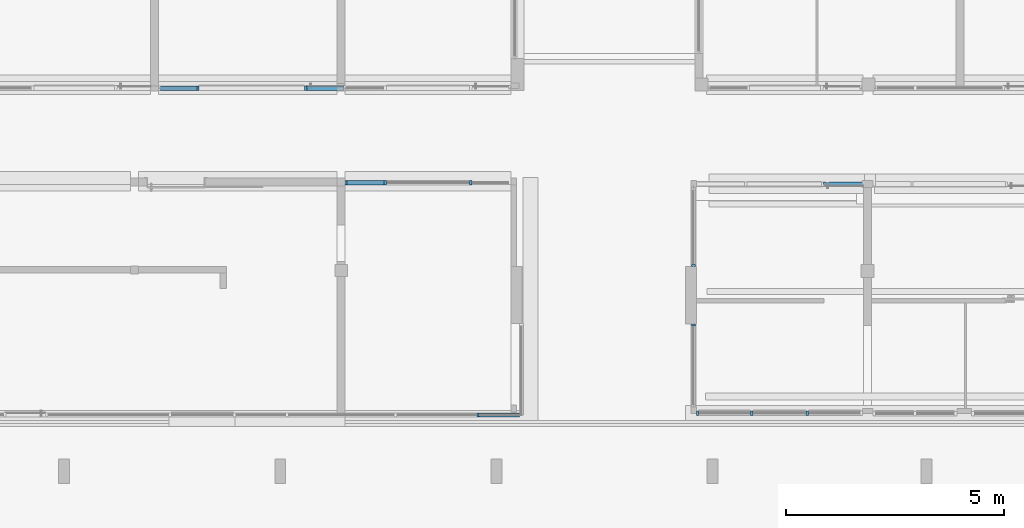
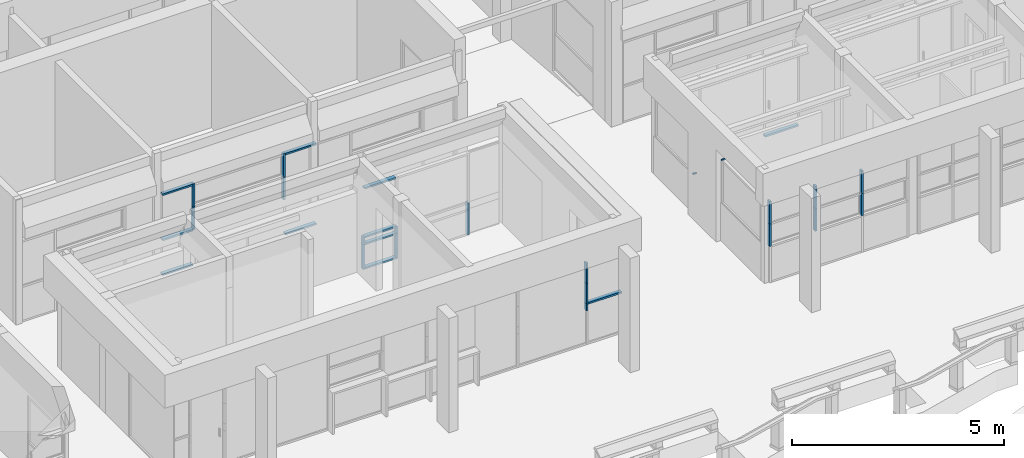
# One storey, part 20 of 117: 32 members, 7 elements without a shape of their own.
"""IFC4 building model written with IfcOpenShell, lengths in metres."""

from ifc_helpers import new_model, entity, si_unit, converted_unit, derived_unit, direction, frame, origin, place, context, subcontext, project, spatial, indexed_curve, outline, extrude, source, transform, mapped, material, type_object, type_shapes, element, aggregate, save


model = new_model("IFC4")

# Units and contexts
model_context = context("Model", 3, precision=1e-05, world=origin(), true_north=direction((6.123031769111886e-17, 1.0)))
body_context = subcontext(model_context, "Body", "Model", "MODEL_VIEW")
ifc_project = project(units=[si_unit("LENGTHUNIT", "METRE"), si_unit("AREAUNIT", "SQUARE_METRE"), si_unit("VOLUMEUNIT", "CUBIC_METRE"), converted_unit("PLANEANGLEUNIT", "DEGREE", entity("IfcRatioMeasure", 0.017453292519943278), si_unit("PLANEANGLEUNIT", "RADIAN"), dimensions=[0, 0, 0, 0, 0, 0, 0]), si_unit("MASSUNIT", "GRAM", prefix="KILO"), derived_unit("MASSDENSITYUNIT", [(si_unit("MASSUNIT", "GRAM", prefix="KILO"), 1), (si_unit("LENGTHUNIT", "METRE"), -3)]), derived_unit("MOMENTOFINERTIAUNIT", [(si_unit("LENGTHUNIT", "METRE"), 4)]), si_unit("TIMEUNIT", "SECOND"), si_unit("FREQUENCYUNIT", "HERTZ"), si_unit("THERMODYNAMICTEMPERATUREUNIT", "DEGREE_CELSIUS"), derived_unit("THERMALTRANSMITTANCEUNIT", [(si_unit("MASSUNIT", "GRAM", prefix="KILO"), 1), (si_unit("THERMODYNAMICTEMPERATUREUNIT", "KELVIN"), -1), (si_unit("TIMEUNIT", "SECOND"), -3)]), derived_unit("VOLUMETRICFLOWRATEUNIT", [(si_unit("LENGTHUNIT", "METRE"), 3), (si_unit("TIMEUNIT", "SECOND"), -1)]), derived_unit("MASSFLOWRATEUNIT", [(si_unit("MASSUNIT", "GRAM", prefix="KILO"), 1), (si_unit("TIMEUNIT", "SECOND"), -1)]), derived_unit("ROTATIONALFREQUENCYUNIT", [(si_unit("TIMEUNIT", "SECOND"), -1)]), si_unit("ELECTRICCURRENTUNIT", "AMPERE"), si_unit("ELECTRICVOLTAGEUNIT", "VOLT"), si_unit("POWERUNIT", "WATT"), si_unit("FORCEUNIT", "NEWTON", prefix="KILO"), si_unit("ILLUMINANCEUNIT", "LUX"), si_unit("LUMINOUSFLUXUNIT", "LUMEN"), si_unit("LUMINOUSINTENSITYUNIT", "CANDELA"), derived_unit("USERDEFINED", [(si_unit("MASSUNIT", "GRAM", prefix="KILO"), -1), (si_unit("LENGTHUNIT", "METRE"), -2), (si_unit("TIMEUNIT", "SECOND"), 3), (si_unit("LUMINOUSFLUXUNIT", "LUMEN"), 1)]), derived_unit("SOUNDPOWERUNIT", [(si_unit("MASSUNIT", "GRAM", prefix="KILO"), 1), (si_unit("LENGTHUNIT", "METRE"), 2), (si_unit("TIMEUNIT", "SECOND"), -3)]), derived_unit("SOUNDPRESSUREUNIT", [(si_unit("MASSUNIT", "GRAM", prefix="KILO"), 1), (si_unit("LENGTHUNIT", "METRE"), -1), (si_unit("TIMEUNIT", "SECOND"), -2)]), derived_unit("LINEARVELOCITYUNIT", [(si_unit("LENGTHUNIT", "METRE"), 1), (si_unit("TIMEUNIT", "SECOND"), -1)]), si_unit("PRESSUREUNIT", "PASCAL"), derived_unit("USERDEFINED", [(si_unit("LENGTHUNIT", "METRE"), -2), (si_unit("MASSUNIT", "GRAM", prefix="KILO"), 1), (si_unit("TIMEUNIT", "SECOND"), -2)]), derived_unit("LINEARFORCEUNIT", [(si_unit("MASSUNIT", "GRAM", prefix="KILO"), 1), (si_unit("LENGTHUNIT", "METRE"), 1), (si_unit("TIMEUNIT", "SECOND"), -2), (si_unit("LENGTHUNIT", "METRE"), -1)]), derived_unit("PLANARFORCEUNIT", [(si_unit("MASSUNIT", "GRAM", prefix="KILO"), 1), (si_unit("LENGTHUNIT", "METRE"), 1), (si_unit("TIMEUNIT", "SECOND"), -2), (si_unit("LENGTHUNIT", "METRE"), -2)])], contexts=[model_context])

# Site, building, storey
site_placement = place(None, origin())
site = spatial("IfcSite", under=ifc_project, at=site_placement, Name="Superficie", CompositionType="ELEMENT")
building_placement = place(site_placement, origin())
building = spatial("IfcBuilding", under=site, at=building_placement, CompositionType="ELEMENT")
storey_placement = place(building_placement, origin())
storey = spatial("IfcBuildingStorey", under=building, at=storey_placement, Name="Nivel 0", CompositionType="ELEMENT", Elevation=0.0)

# Curtain wall, member
curtain_wall_type = type_object("IfcCurtainWallType", Name="Muro cortina:Muro cortina - simple", PredefinedType="NOTDEFINED")
curtain_wall_1_placement = place(storey_placement, origin())
curtain_wall_1 = element("IfcCurtainWall", 1, at=curtain_wall_1_placement, inside=storey, type_object=curtain_wall_type, Name="Muro cortina:Muro cortina - simple", ObjectType="Muro cortina:Muro cortina - simple", PredefinedType="NOTDEFINED")
ifc_material = material(Name="<Unnamed>")
member_type_1 = type_object("IfcMemberType", Name="Montante rectangular:Montante rectangular - 5 x 10 cm", PredefinedType="MULLION", material=ifc_material)
shared_shape_1 = source(origin(), body_context, "Body", "SweptSolid", [
    extrude(outline(indexed_curve([(-0.05, -0.025), (0.05, -0.025), (0.05, 0.025), (-0.05, 0.025), (-0.05, -0.025)], self_intersect=False)), frame((0.0, 0.0, -0.025), z_axis=(0.0, 0.0, 1.0), x_axis=(0.0, -1.0, 0.0)), (0.0, 0.0, 1.0), 0.025),
])
type_shapes(member_type_1, [shared_shape_1])
member_1_placement = place(curtain_wall_1_placement, frame((0.7267990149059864, 0.29436135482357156, 2.3249999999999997), z_axis=(0.0, 0.0, -1.0), x_axis=(0.0, -1.0, 0.0)))
member_1 = element("IfcMember", 2, at=member_1_placement, type_object=member_type_1, material=ifc_material, Name="Montante rectangular:Montante rectangular - 5 x 10 cm", ObjectType="Montante rectangular:Montante rectangular - 5 x 10 cm", PredefinedType="MULLION", context=body_context, shape_type="MappedRepresentation", body=[
    mapped(shared_shape_1, transform((0.0, 0.0, 0.0), scale=1.0)),
])
aggregate(curtain_wall_1, [member_1])

curtain_wall_2_placement = place(storey_placement, origin())
curtain_wall_2 = element("IfcCurtainWall", 3, at=curtain_wall_2_placement, inside=storey, type_object=curtain_wall_type, Name="Muro cortina:Muro cortina - simple", ObjectType="Muro cortina:Muro cortina - simple", PredefinedType="NOTDEFINED")
member_type_2 = type_object("IfcMemberType", Name="Montante rectangular:Montante rectangular - 5 x 10 cm", PredefinedType="MULLION", material=ifc_material)
shared_shape_2 = source(origin(), body_context, "Body", "SweptSolid", [
    extrude(outline(indexed_curve([(-0.05, -0.025), (0.05, -0.025), (0.05, 0.025), (-0.05, 0.025), (-0.05, -0.025)], self_intersect=False)), frame((0.0, 0.0, -0.019999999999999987), z_axis=(0.0, 0.0, 1.0), x_axis=(0.0, -1.0, 0.0)), (0.0, 0.0, 1.0), 0.019999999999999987),
])
type_shapes(member_type_2, [shared_shape_2])
member_2_placement = place(curtain_wall_2_placement, frame((0.7267990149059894, 1.659361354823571, 1.1), z_axis=(0.0, 0.0, -1.0), x_axis=(0.0, -1.0, 0.0)))
member_2 = element("IfcMember", 4, at=member_2_placement, type_object=member_type_2, material=ifc_material, Name="Montante rectangular:Montante rectangular - 5 x 10 cm", ObjectType="Montante rectangular:Montante rectangular - 5 x 10 cm", PredefinedType="MULLION", context=body_context, shape_type="MappedRepresentation", body=[
    mapped(shared_shape_2, transform((0.0, 0.0, 0.0), scale=1.0)),
])
aggregate(curtain_wall_2, [member_2])

curtain_wall_3_placement = place(storey_placement, origin())
curtain_wall_3 = element("IfcCurtainWall", 5, at=curtain_wall_3_placement, inside=storey, type_object=curtain_wall_type, Name="Muro cortina:Muro cortina - simple", ObjectType="Muro cortina:Muro cortina - simple", PredefinedType="NOTDEFINED")
member_type_3 = type_object("IfcMemberType", Name="Montante rectangular:Montante rectangular - 5 x 10 cm", PredefinedType="MULLION", material=ifc_material)
shared_shape_3 = source(origin(), body_context, "Body", "SweptSolid", [
    extrude(outline(indexed_curve([(-0.05, -0.025), (0.05, -0.025), (0.05, 0.025), (-0.05, 0.025), (-0.05, -0.025)], self_intersect=False)), frame((-0.025, 0.0, -0.9100000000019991), z_axis=(0.0, 0.0, 1.0), x_axis=(0.0, -1.0, 0.0)), (0.0, 0.0, 1.0), 0.9100000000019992),
])
type_shapes(member_type_3, [shared_shape_3])
member_3_placement = place(curtain_wall_3_placement, frame((4.616799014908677, 3.525713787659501, 0.0), z_axis=(1.0, 0.0, 0.0), x_axis=(0.0, 0.0, -1.0)))
member_3 = element("IfcMember", 6, at=member_3_placement, type_object=member_type_3, material=ifc_material, Name="Montante rectangular:Montante rectangular - 5 x 10 cm", ObjectType="Montante rectangular:Montante rectangular - 5 x 10 cm", PredefinedType="MULLION", context=body_context, shape_type="MappedRepresentation", body=[
    mapped(shared_shape_3, transform((0.0, 0.0, 0.0), scale=1.0)),
])
aggregate(curtain_wall_3, [member_3])

# Curtain wall, members
curtain_wall_4_placement = place(storey_placement, origin())
curtain_wall_4 = element("IfcCurtainWall", 7, at=curtain_wall_4_placement, inside=storey, type_object=curtain_wall_type, Name="Muro cortina:Muro cortina - simple", ObjectType="Muro cortina:Muro cortina - simple", PredefinedType="NOTDEFINED")
member_type_4 = type_object("IfcMemberType", Name="Montante rectangular:Montante rectangular - 5 x 10 cm", PredefinedType="MULLION", material=ifc_material)
shared_shape_4 = source(origin(), body_context, "Body", "SweptSolid", [
    extrude(outline(indexed_curve([(-0.05, -0.025), (0.05, -0.025), (0.05, 0.025), (-0.05, 0.025), (-0.05, -0.025)], self_intersect=False)), frame((0.0, 0.0, -0.6649999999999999), z_axis=(0.0, 0.0, 1.0), x_axis=(0.0, -1.0, 0.0)), (0.0, 0.0, 1.0), 0.6649999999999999),
])
type_shapes(member_type_4, [shared_shape_4])
member_4_placement = place(curtain_wall_4_placement, frame((-8.1536665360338, 5.715829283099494, 1.0199999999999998), z_axis=(0.0, 0.0, -1.0), x_axis=(1.0, 0.0, 0.0)))
member_4 = element("IfcMember", 8, at=member_4_placement, type_object=member_type_4, material=ifc_material, Name="Montante rectangular:Montante rectangular - 5 x 10 cm", ObjectType="Montante rectangular:Montante rectangular - 5 x 10 cm", PredefinedType="MULLION", context=body_context, shape_type="MappedRepresentation", body=[
    mapped(shared_shape_4, transform((0.0, 0.0, 0.0), scale=1.0)),
])
member_5_placement = place(curtain_wall_4_placement, frame((-10.623200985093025, 5.715829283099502, 1.0200000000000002), z_axis=(0.0, 0.0, -1.0), x_axis=(1.0, 0.0, 0.0)))
member_5 = element("IfcMember", 9, at=member_5_placement, type_object=member_type_4, material=ifc_material, Name="Montante rectangular:Montante rectangular - 5 x 10 cm", ObjectType="Montante rectangular:Montante rectangular - 5 x 10 cm", PredefinedType="MULLION", context=body_context, shape_type="MappedRepresentation", body=[
    mapped(shared_shape_4, transform((0.0, 0.0, 0.0), scale=1.0)),
])
member_type_5 = type_object("IfcMemberType", Name="Montante rectangular:Montante rectangular - 5 x 10 cm", PredefinedType="MULLION", material=ifc_material)
shared_shape_5 = source(origin(), body_context, "Body", "SweptSolid", [
    extrude(outline(indexed_curve([(-0.05, -0.025), (0.05, -0.025), (0.05, 0.025), (-0.05, 0.025), (-0.05, -0.025)], self_intersect=False)), frame((0.0, 0.0, -0.6649999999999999), z_axis=(0.0, 0.0, 1.0), x_axis=(0.0, -1.0, 0.0)), (0.0, 0.0, 1.0), 0.6649999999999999),
])
type_shapes(member_type_5, [shared_shape_5])
member_6_placement = place(curtain_wall_4_placement, frame((-8.1536665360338, 5.715829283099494, 1.685), z_axis=(0.0, 0.0, -1.0), x_axis=(1.0, 0.0, 0.0)))
member_6 = element("IfcMember", 10, at=member_6_placement, type_object=member_type_5, material=ifc_material, Name="Montante rectangular:Montante rectangular - 5 x 10 cm", ObjectType="Montante rectangular:Montante rectangular - 5 x 10 cm", PredefinedType="MULLION", context=body_context, shape_type="MappedRepresentation", body=[
    mapped(shared_shape_5, transform((0.0, 0.0, 0.0), scale=1.0)),
])
member_7_placement = place(curtain_wall_4_placement, frame((-10.623200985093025, 5.715829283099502, 1.685), z_axis=(0.0, 0.0, -1.0), x_axis=(1.0, 0.0, 0.0)))
member_7 = element("IfcMember", 11, at=member_7_placement, type_object=member_type_5, material=ifc_material, Name="Montante rectangular:Montante rectangular - 5 x 10 cm", ObjectType="Montante rectangular:Montante rectangular - 5 x 10 cm", PredefinedType="MULLION", context=body_context, shape_type="MappedRepresentation", body=[
    mapped(shared_shape_5, transform((0.0, 0.0, 0.0), scale=1.0)),
])
member_type_6 = type_object("IfcMemberType", Name="Montante rectangular:Montante rectangular - 5 x 10 cm", PredefinedType="MULLION", material=ifc_material)
shared_shape_6 = source(origin(), body_context, "Body", "SweptSolid", [
    extrude(outline(indexed_curve([(-0.05, -0.025), (0.05, -0.025), (0.05, 0.025), (-0.05, 0.025), (-0.05, -0.025)], self_intersect=False)), frame((-0.025, 0.0, -0.8500000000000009), z_axis=(0.0, 0.0, 1.0), x_axis=(0.0, -1.0, 0.0)), (0.0, 0.0, 1.0), 0.849999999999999),
])
type_shapes(member_type_6, [shared_shape_6])
member_8_placement = place(curtain_wall_4_placement, frame((-7.278666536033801, 5.715829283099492, 2.35), z_axis=(1.0, 0.0, 0.0), x_axis=(0.0, 0.0, 1.0)))
member_8 = element("IfcMember", 12, at=member_8_placement, type_object=member_type_6, material=ifc_material, Name="Montante rectangular:Montante rectangular - 5 x 10 cm", ObjectType="Montante rectangular:Montante rectangular - 5 x 10 cm", PredefinedType="MULLION", context=body_context, shape_type="MappedRepresentation", body=[
    mapped(shared_shape_6, transform((0.0, 0.0, 0.0), scale=1.0)),
])
member_type_7 = type_object("IfcMemberType", Name="Montante rectangular:Montante rectangular - 5 x 10 cm", PredefinedType="MULLION", material=ifc_material)
shared_shape_7 = source(origin(), body_context, "Body", "SweptSolid", [
    extrude(outline(indexed_curve([(-0.05, -0.025), (0.05, -0.025), (0.05, 0.025), (-0.05, 0.025), (-0.05, -0.025)], self_intersect=False)), frame((0.0, 0.0, -0.8500000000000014), z_axis=(0.0, 0.0, 1.0), x_axis=(0.0, -1.0, 0.0)), (0.0, 0.0, 1.0), 0.849999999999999),
])
type_shapes(member_type_7, [shared_shape_7])
member_9_placement = place(curtain_wall_4_placement, frame((-7.278666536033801, 5.715829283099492, 0.019999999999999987), z_axis=(1.0, 0.0, 0.0), x_axis=(0.0, 0.0, 1.0)))
member_9 = element("IfcMember", 13, at=member_9_placement, type_object=member_type_7, material=ifc_material, Name="Montante rectangular:Montante rectangular - 5 x 10 cm", ObjectType="Montante rectangular:Montante rectangular - 5 x 10 cm", PredefinedType="MULLION", context=body_context, shape_type="MappedRepresentation", body=[
    mapped(shared_shape_7, transform((0.0, 0.0, 0.0), scale=1.0)),
])

curtain_wall_5_placement = place(storey_placement, origin())
curtain_wall_5 = element("IfcCurtainWall", 14, at=curtain_wall_5_placement, inside=storey, type_object=curtain_wall_type, Name="Muro cortina:Muro cortina - simple", ObjectType="Muro cortina:Muro cortina - simple", PredefinedType="NOTDEFINED")
member_10_placement = place(curtain_wall_5_placement, frame((-7.208200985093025, 3.555829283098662, 0.9199999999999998), z_axis=(-1.0, 0.0, 0.0), x_axis=(0.0, 0.0, 1.0)))
member_10 = element("IfcMember", 15, at=member_10_placement, type_object=member_type_7, material=ifc_material, Name="Montante rectangular:Montante rectangular - 5 x 10 cm", ObjectType="Montante rectangular:Montante rectangular - 5 x 10 cm", PredefinedType="MULLION", context=body_context, shape_type="MappedRepresentation", body=[
    mapped(shared_shape_7, transform((0.0, 0.0, 0.0), scale=1.0)),
])
member_11_placement = place(curtain_wall_5_placement, frame((-7.208200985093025, 3.555829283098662, 0.7199999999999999), z_axis=(-1.0, 0.0, 0.0), x_axis=(0.0, 0.0, 1.0)))
member_11 = element("IfcMember", 16, at=member_11_placement, type_object=member_type_7, material=ifc_material, Name="Montante rectangular:Montante rectangular - 5 x 10 cm", ObjectType="Montante rectangular:Montante rectangular - 5 x 10 cm", PredefinedType="MULLION", context=body_context, shape_type="MappedRepresentation", body=[
    mapped(shared_shape_7, transform((0.0, 0.0, 0.0), scale=1.0)),
])
member_12_placement = place(curtain_wall_5_placement, frame((-7.208200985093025, 3.555829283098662, 0.019999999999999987), z_axis=(-1.0, 0.0, 0.0), x_axis=(0.0, 0.0, 1.0)))
member_12 = element("IfcMember", 17, at=member_12_placement, type_object=member_type_7, material=ifc_material, Name="Montante rectangular:Montante rectangular - 5 x 10 cm", ObjectType="Montante rectangular:Montante rectangular - 5 x 10 cm", PredefinedType="MULLION", context=body_context, shape_type="MappedRepresentation", body=[
    mapped(shared_shape_7, transform((0.0, 0.0, 0.0), scale=1.0)),
])
member_13_placement = place(curtain_wall_5_placement, frame((-7.208200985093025, 3.555829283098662, 2.3299999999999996), z_axis=(-1.0, 0.0, 0.0), x_axis=(0.0, 0.0, 1.0)))
member_13 = element("IfcMember", 18, at=member_13_placement, type_object=member_type_7, material=ifc_material, Name="Montante rectangular:Montante rectangular - 5 x 10 cm", ObjectType="Montante rectangular:Montante rectangular - 5 x 10 cm", PredefinedType="MULLION", context=body_context, shape_type="MappedRepresentation", body=[
    mapped(shared_shape_7, transform((0.0, 0.0, 0.0), scale=1.0)),
])

# Member
member_type_8 = type_object("IfcMemberType", Name="Montante rectangular:Montante rectangular - 5 x 10 cm", PredefinedType="MULLION", material=ifc_material)
shared_shape_8 = source(origin(), body_context, "Body", "SweptSolid", [
    extrude(outline(indexed_curve([(-0.05, -0.025), (0.05, -0.025), (0.05, 0.025), (-0.05, 0.025), (-0.05, -0.025)], self_intersect=False)), frame((-0.025, 0.0, -0.8299999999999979), z_axis=(0.0, 0.0, 1.0), x_axis=(0.0, -1.0, 0.0)), (0.0, 0.0, 1.0), 0.8299999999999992),
])
type_shapes(member_type_8, [shared_shape_8])
member_14_placement = place(curtain_wall_4_placement, frame((-10.648200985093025, 5.715829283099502, 2.35), z_axis=(1.0, 0.0, 0.0), x_axis=(0.0, 0.0, 1.0)))
member_14 = element("IfcMember", 19, at=member_14_placement, type_object=member_type_8, material=ifc_material, Name="Montante rectangular:Montante rectangular - 5 x 10 cm", ObjectType="Montante rectangular:Montante rectangular - 5 x 10 cm", PredefinedType="MULLION", context=body_context, shape_type="MappedRepresentation", body=[
    mapped(shared_shape_8, transform((0.0, 0.0, 0.0), scale=1.0)),
])

member_type_9 = type_object("IfcMemberType", Name="Montante rectangular:Montante rectangular - 5 x 10 cm", PredefinedType="MULLION", material=ifc_material)
shared_shape_9 = source(origin(), body_context, "Body", "SweptSolid", [
    extrude(outline(indexed_curve([(-0.05, -0.025), (0.05, -0.025), (0.05, 0.025), (-0.05, 0.025), (-0.05, -0.025)], self_intersect=False)), frame((0.0, 0.0, -0.8299999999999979), z_axis=(0.0, 0.0, 1.0), x_axis=(0.0, -1.0, 0.0)), (0.0, 0.0, 1.0), 0.8299999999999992),
])
type_shapes(member_type_9, [shared_shape_9])
member_15_placement = place(curtain_wall_4_placement, frame((-10.648200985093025, 5.715829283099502, 1.0200000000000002), z_axis=(1.0, 0.0, 0.0), x_axis=(0.0, 0.0, 1.0)))
member_15 = element("IfcMember", 20, at=member_15_placement, type_object=member_type_9, material=ifc_material, Name="Montante rectangular:Montante rectangular - 5 x 10 cm", ObjectType="Montante rectangular:Montante rectangular - 5 x 10 cm", PredefinedType="MULLION", context=body_context, shape_type="MappedRepresentation", body=[
    mapped(shared_shape_9, transform((0.0, 0.0, 0.0), scale=1.0)),
])

member_16_placement = place(curtain_wall_4_placement, frame((-10.648200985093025, 5.715829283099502, 0.019999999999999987), z_axis=(1.0, 0.0, 0.0), x_axis=(0.0, 0.0, 1.0)))
member_16 = element("IfcMember", 21, at=member_16_placement, type_object=member_type_9, material=ifc_material, Name="Montante rectangular:Montante rectangular - 5 x 10 cm", ObjectType="Montante rectangular:Montante rectangular - 5 x 10 cm", PredefinedType="MULLION", context=body_context, shape_type="MappedRepresentation", body=[
    mapped(shared_shape_9, transform((0.0, 0.0, 0.0), scale=1.0)),
])

aggregate(curtain_wall_4, [member_8, member_9, member_4, member_6, member_14, member_7, member_5, member_15, member_16])

member_type_10 = type_object("IfcMemberType", Name="Montante rectangular:Montante rectangular - 5 x 10 cm", PredefinedType="MULLION", material=ifc_material)
shared_shape_10 = source(origin(), body_context, "Body", "SweptSolid", [
    extrude(outline(indexed_curve([(-0.05, -0.025), (0.05, -0.025), (0.05, 0.025), (-0.05, 0.025), (-0.05, -0.025)], self_intersect=False)), frame((0.0, 0.0, -0.19999999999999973), z_axis=(0.0, 0.0, 1.0), x_axis=(0.0, -1.0, 0.0)), (0.0, 0.0, 1.0), 0.19999999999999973),
])
type_shapes(member_type_10, [shared_shape_10])
member_17_placement = place(curtain_wall_5_placement, frame((-4.373200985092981, 3.5558292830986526, 0.7199999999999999), z_axis=(0.0, 0.0, -1.0), x_axis=(-1.0, 0.0, 0.0)))
member_17 = element("IfcMember", 22, at=member_17_placement, type_object=member_type_10, material=ifc_material, Name="Montante rectangular:Montante rectangular - 5 x 10 cm", ObjectType="Montante rectangular:Montante rectangular - 5 x 10 cm", PredefinedType="MULLION", context=body_context, shape_type="MappedRepresentation", body=[
    mapped(shared_shape_10, transform((0.0, 0.0, 0.0), scale=1.0)),
])

member_18_placement = place(curtain_wall_5_placement, frame((-6.333200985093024, 3.5558292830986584, 0.7199999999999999), z_axis=(0.0, 0.0, -1.0), x_axis=(-1.0, 0.0, 0.0)))
member_18 = element("IfcMember", 23, at=member_18_placement, type_object=member_type_10, material=ifc_material, Name="Montante rectangular:Montante rectangular - 5 x 10 cm", ObjectType="Montante rectangular:Montante rectangular - 5 x 10 cm", PredefinedType="MULLION", context=body_context, shape_type="MappedRepresentation", body=[
    mapped(shared_shape_10, transform((0.0, 0.0, 0.0), scale=1.0)),
])

member_19_placement = place(curtain_wall_5_placement, frame((-7.233200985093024, 3.555829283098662, 0.7199999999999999), z_axis=(0.0, 0.0, -1.0), x_axis=(-1.0, 0.0, 0.0)))
member_19 = element("IfcMember", 24, at=member_19_placement, type_object=member_type_10, material=ifc_material, Name="Montante rectangular:Montante rectangular - 5 x 10 cm", ObjectType="Montante rectangular:Montante rectangular - 5 x 10 cm", PredefinedType="MULLION", context=body_context, shape_type="MappedRepresentation", body=[
    mapped(shared_shape_10, transform((0.0, 0.0, 0.0), scale=1.0)),
])

member_type_11 = type_object("IfcMemberType", Name="Montante rectangular:Montante rectangular - 5 x 10 cm", PredefinedType="MULLION", material=ifc_material)
shared_shape_11 = source(origin(), body_context, "Body", "SweptSolid", [
    extrude(outline(indexed_curve([(-0.05, -0.025), (0.05, -0.025), (0.05, 0.025), (-0.05, 0.025), (-0.05, -0.025)], self_intersect=False)), frame((0.0, 0.0, -0.7249999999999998), z_axis=(0.0, 0.0, 1.0), x_axis=(0.0, -1.0, 0.0)), (0.0, 0.0, 1.0), 0.7249999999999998),
])
type_shapes(member_type_11, [shared_shape_11])
member_20_placement = place(curtain_wall_5_placement, frame((-4.373200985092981, 3.5558292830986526, -0.005000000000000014), z_axis=(0.0, 0.0, -1.0), x_axis=(-1.0, 0.0, 0.0)))
member_20 = element("IfcMember", 25, at=member_20_placement, type_object=member_type_11, material=ifc_material, Name="Montante rectangular:Montante rectangular - 5 x 10 cm", ObjectType="Montante rectangular:Montante rectangular - 5 x 10 cm", PredefinedType="MULLION", context=body_context, shape_type="MappedRepresentation", body=[
    mapped(shared_shape_11, transform((0.0, 0.0, 0.0), scale=1.0)),
])

member_21_placement = place(curtain_wall_5_placement, frame((-6.333200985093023, 3.5558292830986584, -0.005000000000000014), z_axis=(0.0, 0.0, -1.0), x_axis=(-1.0, 0.0, 0.0)))
member_21 = element("IfcMember", 26, at=member_21_placement, type_object=member_type_11, material=ifc_material, Name="Montante rectangular:Montante rectangular - 5 x 10 cm", ObjectType="Montante rectangular:Montante rectangular - 5 x 10 cm", PredefinedType="MULLION", context=body_context, shape_type="MappedRepresentation", body=[
    mapped(shared_shape_11, transform((0.0, 0.0, 0.0), scale=1.0)),
])

member_22_placement = place(curtain_wall_5_placement, frame((-7.233200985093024, 3.555829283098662, -0.005000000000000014), z_axis=(0.0, 0.0, -1.0), x_axis=(-1.0, 0.0, 0.0)))
member_22 = element("IfcMember", 27, at=member_22_placement, type_object=member_type_11, material=ifc_material, Name="Montante rectangular:Montante rectangular - 5 x 10 cm", ObjectType="Montante rectangular:Montante rectangular - 5 x 10 cm", PredefinedType="MULLION", context=body_context, shape_type="MappedRepresentation", body=[
    mapped(shared_shape_11, transform((0.0, 0.0, 0.0), scale=1.0)),
])

aggregate(curtain_wall_5, [member_17, member_20, member_18, member_21, member_10, member_11, member_19, member_22, member_12, member_13])

# Curtain wall, member
curtain_wall_6_placement = place(storey_placement, origin())
curtain_wall_6 = element("IfcCurtainWall", 28, at=curtain_wall_6_placement, inside=storey, type_object=curtain_wall_type, Name="Muro cortina:Muro cortina - simple", ObjectType="Muro cortina:Muro cortina - simple", PredefinedType="NOTDEFINED")
member_type_12 = type_object("IfcMemberType", Name="Montante rectangular:Montante rectangular - 5 x 10 cm", PredefinedType="MULLION", material=ifc_material)
shared_shape_12 = source(origin(), body_context, "Body", "SweptSolid", [
    extrude(outline(indexed_curve([(-0.05, -0.025), (0.05, -0.025), (0.05, 0.025), (-0.05, 0.025), (-0.05, -0.025)], self_intersect=False)), frame((0.0, 0.0, -0.2), z_axis=(0.0, 0.0, 1.0), x_axis=(0.0, -1.0, 0.0)), (0.0, 0.0, 1.0), 0.2),
])
type_shapes(member_type_12, [shared_shape_12])
member_23_placement = place(curtain_wall_6_placement, frame((-4.208029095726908, -1.7641707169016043, 0.9750000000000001), z_axis=(0.0, 0.0, -1.0), x_axis=(1.0, 0.0, 0.0)))
member_23 = element("IfcMember", 29, at=member_23_placement, type_object=member_type_12, material=ifc_material, Name="Montante rectangular:Montante rectangular - 5 x 10 cm", ObjectType="Montante rectangular:Montante rectangular - 5 x 10 cm", PredefinedType="MULLION", context=body_context, shape_type="MappedRepresentation", body=[
    mapped(shared_shape_12, transform((0.0, 0.0, 0.0), scale=1.0)),
])

# Curtain wall, members
curtain_wall_7_placement = place(storey_placement, origin())
curtain_wall_7 = element("IfcCurtainWall", 30, at=curtain_wall_7_placement, inside=storey, type_object=curtain_wall_type, Name="Muro cortina:Muro cortina - simple", ObjectType="Muro cortina:Muro cortina - simple", PredefinedType="NOTDEFINED")
member_type_13 = type_object("IfcMemberType", Name="Montante rectangular:Montante rectangular - 5 x 10 cm", PredefinedType="MULLION", material=ifc_material)
shared_shape_13 = source(origin(), body_context, "Body", "SweptSolid", [
    extrude(outline(indexed_curve([(-0.05, -0.025), (0.05, -0.025), (0.05, 0.025), (-0.05, 0.025), (-0.05, -0.025)], self_intersect=False)), frame((-0.025, 0.0, -0.65), z_axis=(0.0, 0.0, 1.0), x_axis=(0.0, -1.0, 0.0)), (0.0, 0.0, 1.0), 0.65),
])
type_shapes(member_type_13, [shared_shape_13])
member_24_placement = place(curtain_wall_7_placement, frame((0.7917990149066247, -1.724170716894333, 1.0499999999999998), z_axis=(0.0, 0.0, -1.0), x_axis=(-1.0, 0.0, 0.0)))
member_24 = element("IfcMember", 31, at=member_24_placement, type_object=member_type_13, material=ifc_material, Name="Montante rectangular:Montante rectangular - 5 x 10 cm", ObjectType="Montante rectangular:Montante rectangular - 5 x 10 cm", PredefinedType="MULLION", context=body_context, shape_type="MappedRepresentation", body=[
    mapped(shared_shape_13, transform((0.0, 0.0, 0.0), scale=1.0)),
])
member_type_14 = type_object("IfcMemberType", Name="Montante rectangular:Montante rectangular - 5 x 10 cm", PredefinedType="MULLION", material=ifc_material)
shared_shape_14 = source(origin(), body_context, "Body", "SweptSolid", [
    extrude(outline(indexed_curve([(-0.05, -0.025), (0.05, -0.025), (0.05, 0.025), (-0.05, 0.025), (-0.05, -0.025)], self_intersect=False)), frame((0.0, 0.0, -0.65), z_axis=(0.0, 0.0, 1.0), x_axis=(0.0, -1.0, 0.0)), (0.0, 0.0, 1.0), 0.65),
])
type_shapes(member_type_14, [shared_shape_14])
member_25_placement = place(curtain_wall_7_placement, frame((2.0601323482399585, -1.724170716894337, 1.0499999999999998), z_axis=(0.0, 0.0, -1.0), x_axis=(-1.0, 0.0, 0.0)))
member_25 = element("IfcMember", 32, at=member_25_placement, type_object=member_type_14, material=ifc_material, Name="Montante rectangular:Montante rectangular - 5 x 10 cm", ObjectType="Montante rectangular:Montante rectangular - 5 x 10 cm", PredefinedType="MULLION", context=body_context, shape_type="MappedRepresentation", body=[
    mapped(shared_shape_14, transform((0.0, 0.0, 0.0), scale=1.0)),
])
member_26_placement = place(curtain_wall_7_placement, frame((3.3284656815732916, -1.724170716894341, 1.0499999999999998), z_axis=(0.0, 0.0, -1.0), x_axis=(-1.0, 0.0, 0.0)))
member_26 = element("IfcMember", 33, at=member_26_placement, type_object=member_type_14, material=ifc_material, Name="Montante rectangular:Montante rectangular - 5 x 10 cm", ObjectType="Montante rectangular:Montante rectangular - 5 x 10 cm", PredefinedType="MULLION", context=body_context, shape_type="MappedRepresentation", body=[
    mapped(shared_shape_14, transform((0.0, 0.0, 0.0), scale=1.0)),
])
member_type_15 = type_object("IfcMemberType", Name="Montante rectangular:Montante rectangular - 5 x 10 cm", PredefinedType="MULLION", material=ifc_material)
shared_shape_15 = source(origin(), body_context, "Body", "SweptSolid", [
    extrude(outline(indexed_curve([(-0.05, -0.025), (0.05, -0.025), (0.05, 0.025), (-0.05, 0.025), (-0.05, -0.025)], self_intersect=False)), frame((-0.025, 0.0, -0.65), z_axis=(0.0, 0.0, 1.0), x_axis=(0.0, -1.0, 0.0)), (0.0, 0.0, 1.0), 0.65),
])
type_shapes(member_type_15, [shared_shape_15])
member_27_placement = place(curtain_wall_7_placement, frame((0.7917990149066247, -1.724170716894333, 1.7), z_axis=(0.0, 0.0, -1.0), x_axis=(-1.0, 0.0, 0.0)))
member_27 = element("IfcMember", 34, at=member_27_placement, type_object=member_type_15, material=ifc_material, Name="Montante rectangular:Montante rectangular - 5 x 10 cm", ObjectType="Montante rectangular:Montante rectangular - 5 x 10 cm", PredefinedType="MULLION", context=body_context, shape_type="MappedRepresentation", body=[
    mapped(shared_shape_15, transform((0.0, 0.0, 0.0), scale=1.0)),
])
member_type_16 = type_object("IfcMemberType", Name="Montante rectangular:Montante rectangular - 5 x 10 cm", PredefinedType="MULLION", material=ifc_material)
shared_shape_16 = source(origin(), body_context, "Body", "SweptSolid", [
    extrude(outline(indexed_curve([(-0.05, -0.025), (0.05, -0.025), (0.05, 0.025), (-0.05, 0.025), (-0.05, -0.025)], self_intersect=False)), frame((0.0, 0.0, -0.65), z_axis=(0.0, 0.0, 1.0), x_axis=(0.0, -1.0, 0.0)), (0.0, 0.0, 1.0), 0.65),
])
type_shapes(member_type_16, [shared_shape_16])
member_28_placement = place(curtain_wall_7_placement, frame((2.060132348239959, -1.724170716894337, 1.7), z_axis=(0.0, 0.0, -1.0), x_axis=(-1.0, 0.0, 0.0)))
member_28 = element("IfcMember", 35, at=member_28_placement, type_object=member_type_16, material=ifc_material, Name="Montante rectangular:Montante rectangular - 5 x 10 cm", ObjectType="Montante rectangular:Montante rectangular - 5 x 10 cm", PredefinedType="MULLION", context=body_context, shape_type="MappedRepresentation", body=[
    mapped(shared_shape_16, transform((0.0, 0.0, 0.0), scale=1.0)),
])
member_29_placement = place(curtain_wall_7_placement, frame((3.3284656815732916, -1.724170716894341, 1.7), z_axis=(0.0, 0.0, -1.0), x_axis=(-1.0, 0.0, 0.0)))
member_29 = element("IfcMember", 36, at=member_29_placement, type_object=member_type_16, material=ifc_material, Name="Montante rectangular:Montante rectangular - 5 x 10 cm", ObjectType="Montante rectangular:Montante rectangular - 5 x 10 cm", PredefinedType="MULLION", context=body_context, shape_type="MappedRepresentation", body=[
    mapped(shared_shape_16, transform((0.0, 0.0, 0.0), scale=1.0)),
])
aggregate(curtain_wall_7, [member_24, member_25, member_26, member_27, member_28, member_29])

# Member
member_type_17 = type_object("IfcMemberType", Name="Montante rectangular:Montante rectangular - 5 x 10 cm", PredefinedType="MULLION", material=ifc_material)
shared_shape_17 = source(origin(), body_context, "Body", "SweptSolid", [
    extrude(outline(indexed_curve([(-0.05, -0.025), (0.05, -0.025), (0.05, 0.025), (-0.05, 0.025), (-0.05, -0.025)], self_intersect=False)), frame((0.0, 0.0, -0.5874999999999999), z_axis=(0.0, 0.0, 1.0), x_axis=(0.0, -1.0, 0.0)), (0.0, 0.0, 1.0), 0.5874999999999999),
])
type_shapes(member_type_17, [shared_shape_17])
member_30_placement = place(curtain_wall_6_placement, frame((-4.208029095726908, -1.7641707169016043, 1.175), z_axis=(0.0, 0.0, -1.0), x_axis=(1.0, 0.0, 0.0)))
member_30 = element("IfcMember", 37, at=member_30_placement, type_object=member_type_17, material=ifc_material, Name="Montante rectangular:Montante rectangular - 5 x 10 cm", ObjectType="Montante rectangular:Montante rectangular - 5 x 10 cm", PredefinedType="MULLION", context=body_context, shape_type="MappedRepresentation", body=[
    mapped(shared_shape_17, transform((0.0, 0.0, 0.0), scale=1.0)),
])

member_type_18 = type_object("IfcMemberType", Name="Montante rectangular:Montante rectangular - 5 x 10 cm", PredefinedType="MULLION", material=ifc_material)
shared_shape_18 = source(origin(), body_context, "Body", "SweptSolid", [
    extrude(outline(indexed_curve([(-0.05, -0.025), (0.05, -0.025), (0.05, 0.025), (-0.05, 0.025), (-0.05, -0.025)], self_intersect=False)), frame((0.0, 0.0, -0.9198281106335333), z_axis=(0.0, 0.0, 1.0), x_axis=(0.0, -1.0, 0.0)), (0.0, 0.0, 1.0), 0.9198281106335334),
])
type_shapes(member_type_18, [shared_shape_18])
member_31_placement = place(curtain_wall_6_placement, frame((-3.2632009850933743, -1.7641707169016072, 1.1750000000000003), z_axis=(1.0, 0.0, 0.0), x_axis=(0.0, 0.0, 1.0)))
member_31 = element("IfcMember", 38, at=member_31_placement, type_object=member_type_18, material=ifc_material, Name="Montante rectangular:Montante rectangular - 5 x 10 cm", ObjectType="Montante rectangular:Montante rectangular - 5 x 10 cm", PredefinedType="MULLION", context=body_context, shape_type="MappedRepresentation", body=[
    mapped(shared_shape_18, transform((0.0, 0.0, 0.0), scale=1.0)),
])

member_type_19 = type_object("IfcMemberType", Name="Montante rectangular:Montante rectangular - 5 x 10 cm", PredefinedType="MULLION", material=ifc_material)
shared_shape_19 = source(origin(), body_context, "Body", "SweptSolid", [
    extrude(outline(indexed_curve([(-0.05, -0.025), (0.05, -0.025), (0.05, 0.025), (-0.05, 0.025), (-0.05, -0.025)], self_intersect=False)), frame((0.0, 0.0, -0.5875000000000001), z_axis=(0.0, 0.0, 1.0), x_axis=(0.0, -1.0, 0.0)), (0.0, 0.0, 1.0), 0.5875000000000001),
])
type_shapes(member_type_19, [shared_shape_19])
member_32_placement = place(curtain_wall_6_placement, frame((-4.208029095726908, -1.7641707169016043, 1.7625), z_axis=(0.0, 0.0, -1.0), x_axis=(1.0, 0.0, 0.0)))
member_32 = element("IfcMember", 39, at=member_32_placement, type_object=member_type_19, material=ifc_material, Name="Montante rectangular:Montante rectangular - 5 x 10 cm", ObjectType="Montante rectangular:Montante rectangular - 5 x 10 cm", PredefinedType="MULLION", context=body_context, shape_type="MappedRepresentation", body=[
    mapped(shared_shape_19, transform((0.0, 0.0, 0.0), scale=1.0)),
])

aggregate(curtain_wall_6, [member_30, member_31, member_23, member_32])

save(model, "model.ifc")
